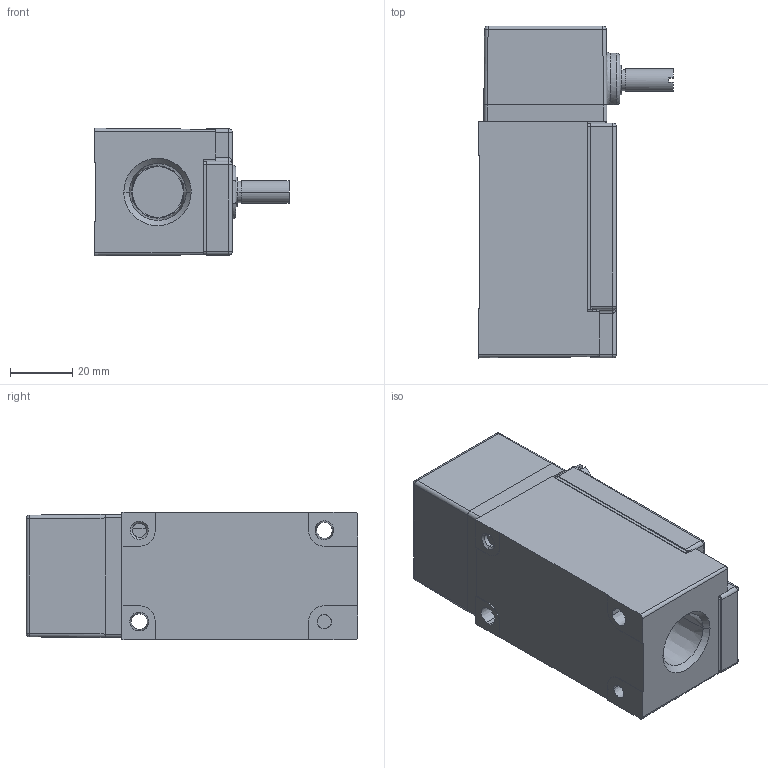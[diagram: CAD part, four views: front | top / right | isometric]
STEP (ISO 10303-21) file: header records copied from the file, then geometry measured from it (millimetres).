
FILE_DESCRIPTION((''),'2;1');
FILE_NAME('LSA3K_SW','2012-12-06T',('E522935'),(''),'PRO/ENGINEER BY PARAMETRIC TECHNOLOGY CORPORATION, 2009460','PRO/ENGINEER BY PARAMETRIC TECHNOLOGY CORPORATION, 2009460','');
FILE_SCHEMA(('CONFIG_CONTROL_DESIGN'));
Length unit declared in the file: inch
Products named in the file (1): LSA3K_SW
Bounding box: 62.61 x 106.78 x 41.15 mm (x, y, z)
Volume: 175915.6 mm3; surface area: 25425.7 mm2
Topology: 1 solids, 1 shells, 429 faces, 1029 edges, 624 vertices
Faces by surface type: plane 244, cylinder 131, cone 26, sphere 22, bspline 3, torus 3
Entity records: 14000 total; most frequent: CARTESIAN_POINT 3869, DIRECTION 2187, ORIENTED_EDGE 2058, EDGE_CURVE 1029, AXIS2_PLACEMENT_3D 796, VERTEX_POINT 624, VECTOR 595, LINE 595
